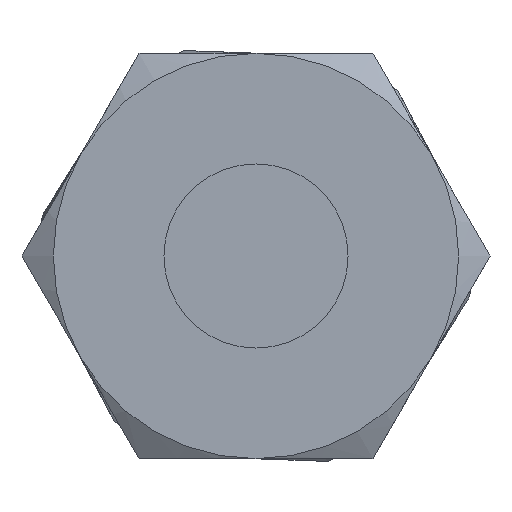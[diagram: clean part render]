
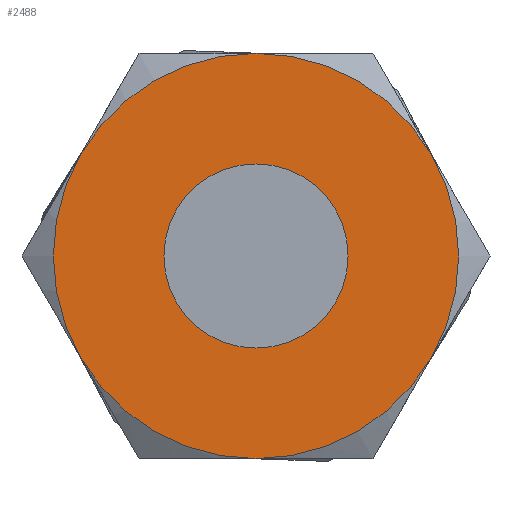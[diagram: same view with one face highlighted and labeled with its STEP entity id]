
A CAD part, front view. The second image highlights one B-rep face of the part: STEP entity #2488.
In plain terms, the highlighted planar face has unit normal (0, -1, 0).
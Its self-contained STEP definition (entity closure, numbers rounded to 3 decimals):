
#41 = FACE_BOUND ( 'NONE', #748, .T. ) ;
#55 = FACE_OUTER_BOUND ( 'NONE', #762, .T. ) ;
#57 = PLANE ( 'NONE',  #1990 ) ;
#66 = CARTESIAN_POINT ( 'NONE',  ( 28.085, -11.627, 32.316 ) ) ;
#67 = DIRECTION ( 'NONE',  ( 0., -1., 0. ) ) ;
#68 = DIRECTION ( 'NONE',  ( 0., 0., -1. ) ) ;
#748 = EDGE_LOOP ( 'NONE', ( #3332, #3333 ) ) ;
#762 = EDGE_LOOP ( 'NONE', ( #3326, #3327, #3328, #3329, #3330, #3331 ) ) ;
#980 = CARTESIAN_POINT ( 'NONE',  ( -7.422, -11.627, 11.816 ) ) ;
#981 = DIRECTION ( 'NONE',  ( 0., 1., 0. ) ) ;
#1089 = CIRCLE ( 'NONE', #1093, 20.5 ) ;
#1090 = AXIS2_PLACEMENT_3D ( 'NONE', #2583, #2584, #2585 ) ;
#1091 = CIRCLE ( 'NONE', #1090, 20.5 ) ;
#1092 = CIRCLE ( 'NONE', #1100, 20.5 ) ;
#1093 = AXIS2_PLACEMENT_3D ( 'NONE', #980, #981, #2582 ) ;
#1094 = CIRCLE ( 'NONE', #1098, 20.5 ) ;
#1097 = CIRCLE ( 'NONE', #1102, 20.5 ) ;
#1098 = AXIS2_PLACEMENT_3D ( 'NONE', #2586, #2587, #2588 ) ;
#1100 = AXIS2_PLACEMENT_3D ( 'NONE', #2589, #2590, #2591 ) ;
#1101 = CIRCLE ( 'NONE', #1106, 9.316 ) ;
#1102 = AXIS2_PLACEMENT_3D ( 'NONE', #2593, #2594, #2595 ) ;
#1103 = CIRCLE ( 'NONE', #1104, 20.5 ) ;
#1104 = AXIS2_PLACEMENT_3D ( 'NONE', #2606, #2607, #2608 ) ;
#1106 = AXIS2_PLACEMENT_3D ( 'NONE', #2653, #2654, #2655 ) ;
#1120 = CIRCLE ( 'NONE', #1123, 9.316 ) ;
#1123 = AXIS2_PLACEMENT_3D ( 'NONE', #2681, #2682, #2683 ) ;
#1990 = AXIS2_PLACEMENT_3D ( 'NONE', #66, #67, #68 ) ;
#2088 = VERTEX_POINT ( 'NONE', #3063 ) ;
#2199 = VERTEX_POINT ( 'NONE', #3079 ) ;
#2203 = VERTEX_POINT ( 'NONE', #3078 ) ;
#2302 = VERTEX_POINT ( 'NONE', #3111 ) ;
#2303 = VERTEX_POINT ( 'NONE', #3112 ) ;
#2311 = VERTEX_POINT ( 'NONE', #3117 ) ;
#2338 = VERTEX_POINT ( 'NONE', #3121 ) ;
#2342 = VERTEX_POINT ( 'NONE', #3135 ) ;
#2488 = ADVANCED_FACE ( 'NONE', ( #55, #41 ), #57, .T. ) ;
#2532 = EDGE_CURVE ( 'NONE', #2303, #2302, #1089, .T. ) ;
#2533 = EDGE_CURVE ( 'NONE', #2302, #2311, #1091, .T. ) ;
#2534 = EDGE_CURVE ( 'NONE', #2311, #2203, #1094, .T. ) ;
#2535 = EDGE_CURVE ( 'NONE', #2203, #2338, #1092, .T. ) ;
#2536 = EDGE_CURVE ( 'NONE', #2338, #2199, #1097, .T. ) ;
#2538 = EDGE_CURVE ( 'NONE', #2199, #2303, #1103, .T. ) ;
#2545 = EDGE_CURVE ( 'NONE', #2342, #2088, #1101, .T. ) ;
#2554 = EDGE_CURVE ( 'NONE', #2088, #2342, #1120, .T. ) ;
#2582 = DIRECTION ( 'NONE',  ( 0., 0., -1. ) ) ;
#2583 = CARTESIAN_POINT ( 'NONE',  ( -7.422, -11.627, 11.816 ) ) ;
#2584 = DIRECTION ( 'NONE',  ( 0., 1., 0. ) ) ;
#2585 = DIRECTION ( 'NONE',  ( 0., 0., 1. ) ) ;
#2586 = CARTESIAN_POINT ( 'NONE',  ( -7.422, -11.627, 11.816 ) ) ;
#2587 = DIRECTION ( 'NONE',  ( 0., 1., 0. ) ) ;
#2588 = DIRECTION ( 'NONE',  ( 0., 0., -1. ) ) ;
#2589 = CARTESIAN_POINT ( 'NONE',  ( -7.422, -11.627, 11.816 ) ) ;
#2590 = DIRECTION ( 'NONE',  ( 0., 1., 0. ) ) ;
#2591 = DIRECTION ( 'NONE',  ( 0., 0., -1. ) ) ;
#2593 = CARTESIAN_POINT ( 'NONE',  ( -7.422, -11.627, 11.816 ) ) ;
#2594 = DIRECTION ( 'NONE',  ( 0., 1., 0. ) ) ;
#2595 = DIRECTION ( 'NONE',  ( 0., 0., -1. ) ) ;
#2606 = CARTESIAN_POINT ( 'NONE',  ( -7.422, -11.627, 11.816 ) ) ;
#2607 = DIRECTION ( 'NONE',  ( 0., 1., 0. ) ) ;
#2608 = DIRECTION ( 'NONE',  ( 0., 0., -1. ) ) ;
#2653 = CARTESIAN_POINT ( 'NONE',  ( -7.422, -11.627, 11.816 ) ) ;
#2654 = DIRECTION ( 'NONE',  ( 0., -1., 0. ) ) ;
#2655 = DIRECTION ( 'NONE',  ( 0., 0., -1. ) ) ;
#2681 = CARTESIAN_POINT ( 'NONE',  ( -7.422, -11.627, 11.816 ) ) ;
#2682 = DIRECTION ( 'NONE',  ( 0., -1., 0. ) ) ;
#2683 = DIRECTION ( 'NONE',  ( 0., 0., -1. ) ) ;
#3063 = CARTESIAN_POINT ( 'NONE',  ( -7.422, -11.627, 2.5 ) ) ;
#3078 = CARTESIAN_POINT ( 'NONE',  ( 10.332, -11.627, 1.566 ) ) ;
#3079 = CARTESIAN_POINT ( 'NONE',  ( -25.175, -11.627, 1.566 ) ) ;
#3111 = CARTESIAN_POINT ( 'NONE',  ( -7.422, -11.627, 32.316 ) ) ;
#3112 = CARTESIAN_POINT ( 'NONE',  ( -25.175, -11.627, 22.066 ) ) ;
#3117 = CARTESIAN_POINT ( 'NONE',  ( 10.332, -11.627, 22.066 ) ) ;
#3121 = CARTESIAN_POINT ( 'NONE',  ( -7.422, -11.627, -8.684 ) ) ;
#3135 = CARTESIAN_POINT ( 'NONE',  ( -7.422, -11.627, 21.131 ) ) ;
#3326 = ORIENTED_EDGE ( 'NONE', *, *, #2536, .F. ) ;
#3327 = ORIENTED_EDGE ( 'NONE', *, *, #2535, .F. ) ;
#3328 = ORIENTED_EDGE ( 'NONE', *, *, #2534, .F. ) ;
#3329 = ORIENTED_EDGE ( 'NONE', *, *, #2533, .F. ) ;
#3330 = ORIENTED_EDGE ( 'NONE', *, *, #2532, .F. ) ;
#3331 = ORIENTED_EDGE ( 'NONE', *, *, #2538, .F. ) ;
#3332 = ORIENTED_EDGE ( 'NONE', *, *, #2554, .F. ) ;
#3333 = ORIENTED_EDGE ( 'NONE', *, *, #2545, .F. ) ;
